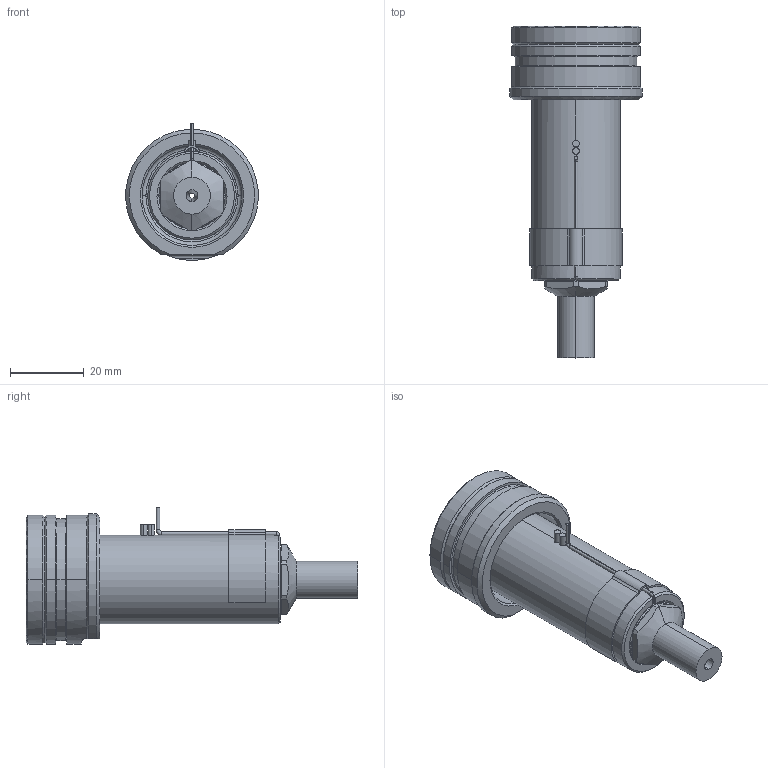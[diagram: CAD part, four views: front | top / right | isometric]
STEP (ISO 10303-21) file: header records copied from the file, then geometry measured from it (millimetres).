
FILE_DESCRIPTION((''),'2;1');
FILE_NAME('EO06_VG-FBE_STD_060_SW','2024-02-19T13:47:37',('sundharh'),(''),'CREO PARAMETRIC BY PTC INC, 2023154','CREO PARAMETRIC BY PTC INC, 2023154','');
FILE_SCHEMA(('CONFIG_CONTROL_DESIGN'));
Length unit declared in the file: millimetre
Products named in the file (1): EO06_VG-FBE_STD_060_SW
Bounding box: 35.93 x 90 x 37 mm (x, y, z)
Volume: 39656.3 mm3; surface area: 13362.5 mm2
Topology: 2 solids, 2 shells, 205 faces, 506 edges, 303 vertices
Faces by surface type: cylinder 76, plane 42, cone 40, torus 29, bspline 16, sphere 2
Entity records: 6934 total; most frequent: CARTESIAN_POINT 2013, DIRECTION 1102, ORIENTED_EDGE 1000, EDGE_CURVE 500, AXIS2_PLACEMENT_3D 466, VERTEX_POINT 303, CIRCLE 277, EDGE_LOOP 219
